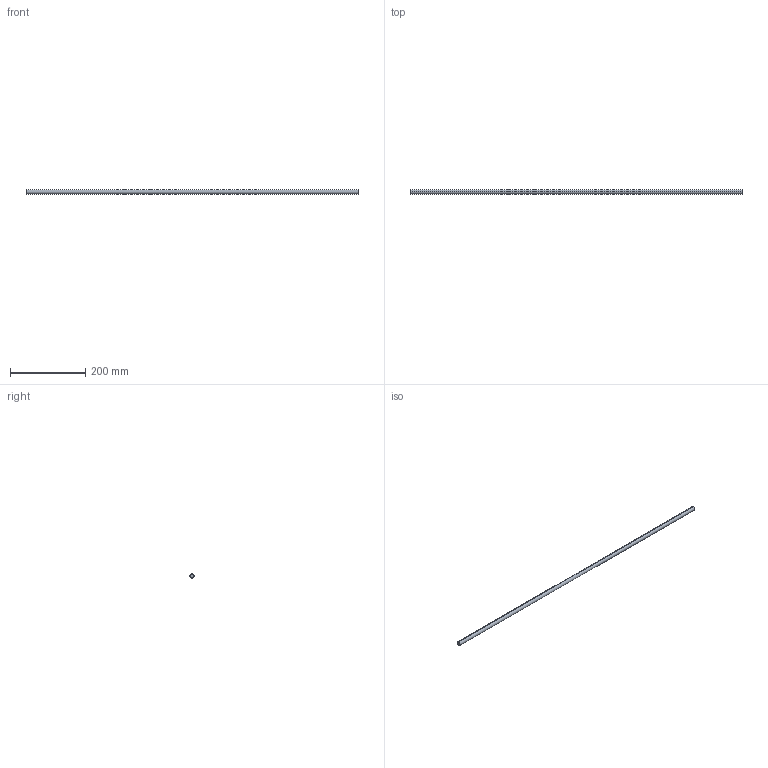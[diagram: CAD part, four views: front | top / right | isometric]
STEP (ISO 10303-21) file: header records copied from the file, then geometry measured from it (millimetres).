
FILE_DESCRIPTION (( 'STEP AP214' ), '1' );
FILE_NAME ('Querreling_Frontblende_Innenlade_KS-19_25mm-Halter_KAB-1000.step', '2010-09-22T15:05:47', ( 'grass' ), ( '' ), 'SwSTEP 2.0', 'SolidWorks 2010', '' );
FILE_SCHEMA (( 'AUTOMOTIVE_DESIGN' ));
Length unit declared in the file: millimetre
Products named in the file (1): Querreling_Frontblende_Innenlade_KS-19_25mm-Halter_KAB-1000
Bounding box: 884 x 11 x 11 mm (x, y, z)
Volume: 84009.3 mm3; surface area: 30738.9 mm2
Topology: 1 solids, 1 shells, 4 faces, 6 edges, 4 vertices
Faces by surface type: cylinder 2, plane 2
Entity records: 128 total; most frequent: DIRECTION 20, CARTESIAN_POINT 15, ORIENTED_EDGE 12, AXIS2_PLACEMENT_3D 9, EDGE_CURVE 6, VERTEX_POINT 4, FACE_OUTER_BOUND 4, CIRCLE 4
